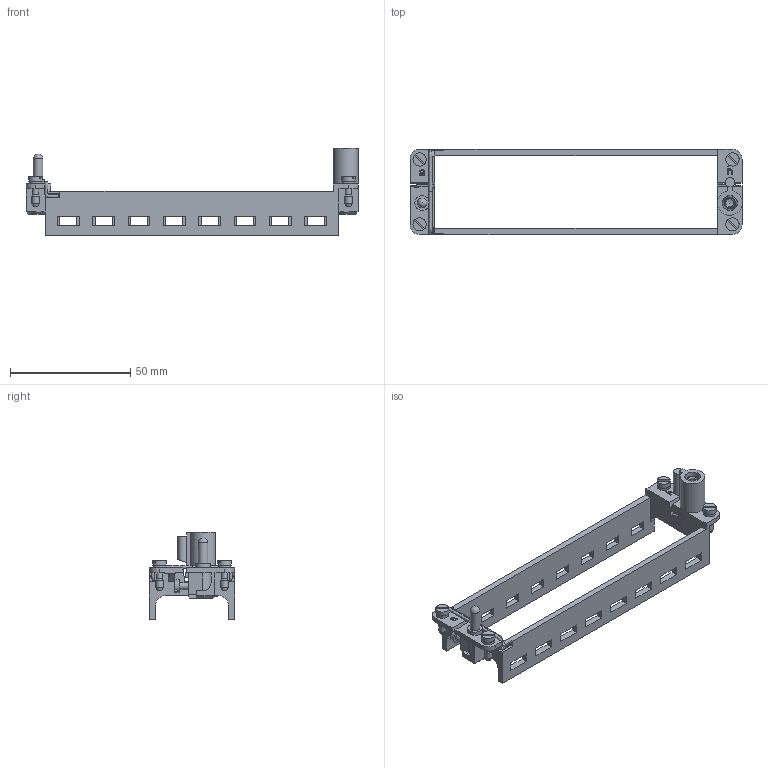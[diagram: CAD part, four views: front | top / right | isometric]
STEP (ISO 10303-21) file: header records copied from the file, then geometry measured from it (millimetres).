
FILE_DESCRIPTION(/* description */ (''),/* implementation_level */ '2;1');
FILE_NAME(/* name */ '100890985ugm000_b.stp',/* time_stamp */ '2022-03-12T10:21:45+01:00',/* author */ (''),/* organization */ (''),/* preprocessor_version */ 'ST-DEVELOPER v16.7',/* originating_system */ 'SIEMENS PLM Software NX 1911',/* authorisation */ '');
FILE_SCHEMA (('AUTOMOTIVE_DESIGN { 1 0 10303 214 3 1 1 1 }'));
Length unit declared in the file: millimetre
Products named in the file (1): 100890985ugm000_b
Bounding box: 138.15 x 35.4 x 36.3 mm (x, y, z)
Volume: 15773.4 mm3; surface area: 16644 mm2
Topology: 2 solids, 2 shells, 544 faces, 2040 edges, 1877 vertices
Faces by surface type: plane 353, extrusion 98, cylinder 69, cone 17, bspline 5, sphere 1, torus 1
Full cylindrical faces by diameter (mm): 1.72 x2, 2.5 x4, 3 x5, 3.45 x1, 3.97 x1, 4 x1, 4.25 x1, 4.75 x1, 5.3 x4, 5.5 x5
Entity records: 28476 total; most frequent: CARTESIAN_POINT 7467, ORIENTED_EDGE 3260, DIRECTION 2819, EDGE_CURVE 1630, VECTOR 1521, LINE 1423, VERTEX_POINT 1185, PRESENTATION_STYLE_ASSIGNMENT 885
